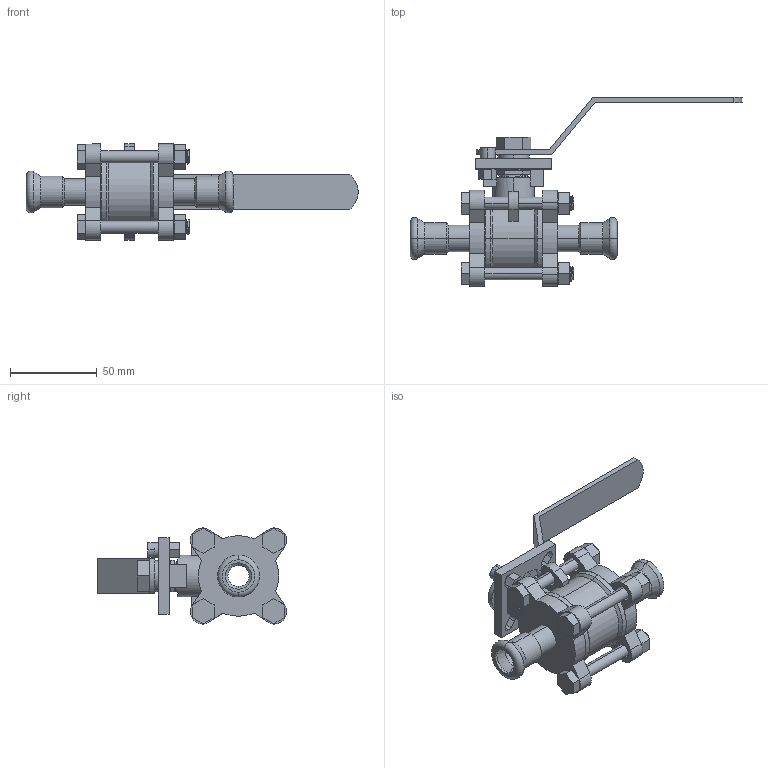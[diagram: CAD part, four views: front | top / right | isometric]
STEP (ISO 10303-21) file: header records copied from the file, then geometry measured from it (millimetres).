
FILE_DESCRIPTION (( 'STEP AP214' ), '1' );
FILE_NAME ('V1500PM.STEP', '2025-08-17T06:42:25', ( '' ), ( '' ), 'SwSTEP 2.0', 'SolidWorks 2020', '' );
FILE_SCHEMA (( 'AUTOMOTIVE_DESIGN' ));
Length unit declared in the file: millimetre
Products named in the file (1): V1500PM
Bounding box: 191.35 x 108.93 x 55.38 mm (x, y, z)
Volume: 130338.1 mm3; surface area: 63282.3 mm2
Topology: 5 solids, 5 shells, 516 faces, 1342 edges, 863 vertices
Faces by surface type: cylinder 255, plane 206, bspline 27, cone 20, torus 8
Entity records: 31080 total; most frequent: CARTESIAN_POINT 13269, ORIENTED_EDGE 2684, DIRECTION 2357, EDGE_CURVE 1342, VERTEX_POINT 863, AXIS2_PLACEMENT_3D 845, LINE 667, VECTOR 667
